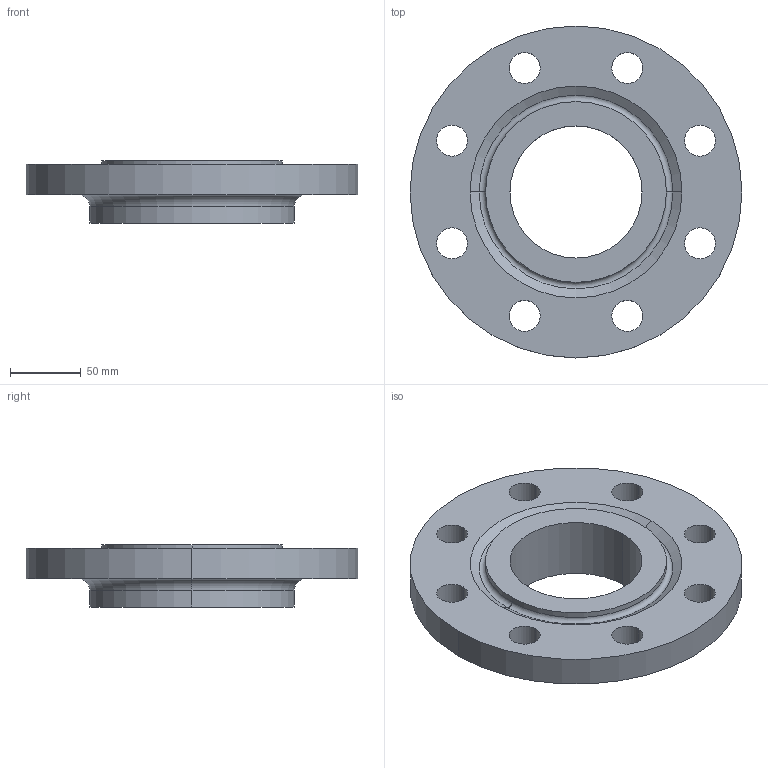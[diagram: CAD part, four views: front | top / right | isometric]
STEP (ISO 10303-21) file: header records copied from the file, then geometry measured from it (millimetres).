
FILE_DESCRIPTION (( 'STEP AP214' ), '1' );
FILE_NAME ('PN40 DN100 Type 13 - Type H Face.STEP', '2019-01-02T00:17:24', ( '' ), ( '' ), 'SwSTEP 2.0', 'SolidWorks 2019', '' );
FILE_SCHEMA (( 'AUTOMOTIVE_DESIGN' ));
Length unit declared in the file: millimetre
Products named in the file (1): PN40 DN100 Type 13 - Type H Face
Bounding box: 235 x 235 x 44 mm (x, y, z)
Volume: 920369.1 mm3; surface area: 118057.4 mm2
Topology: 1 solids, 1 shells, 34 faces, 84 edges, 54 vertices
Faces by surface type: cylinder 24, torus 4, plane 4, cone 2
Entity records: 1108 total; most frequent: DIRECTION 212, CARTESIAN_POINT 173, ORIENTED_EDGE 168, AXIS2_PLACEMENT_3D 93, EDGE_CURVE 84, CIRCLE 58, EDGE_LOOP 54, VERTEX_POINT 54
